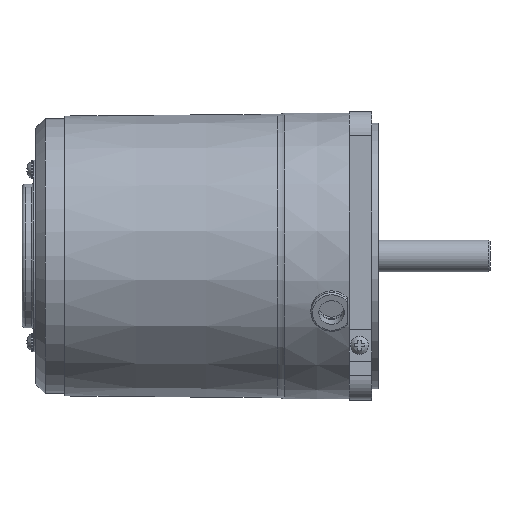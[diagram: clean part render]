
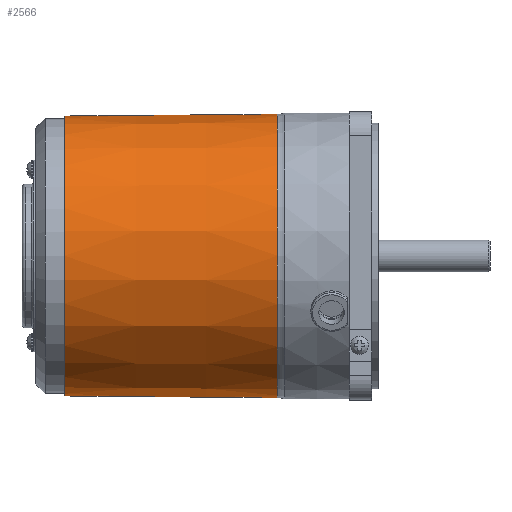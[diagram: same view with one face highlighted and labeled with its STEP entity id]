
A CAD part, top view. The second image highlights one B-rep face of the part: STEP entity #2566.
In plain terms, the highlighted conical face has half-angle 0.48 degrees and reference radius 44.029 mm.
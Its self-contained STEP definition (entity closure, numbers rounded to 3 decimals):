
#15=CONICAL_SURFACE('',#2805,44.029,0.48);
#525=FACE_BOUND('',#843,.T.);
#650=FACE_OUTER_BOUND('',#842,.T.);
#842=EDGE_LOOP('',(#2070));
#843=EDGE_LOOP('',(#2071));
#986=CIRCLE('',#2804,43.75);
#987=CIRCLE('',#2806,44.308);
#1185=VERTEX_POINT('',#4333);
#1186=VERTEX_POINT('',#4336);
#1494=EDGE_CURVE('',#1185,#1185,#986,.T.);
#1495=EDGE_CURVE('',#1186,#1186,#987,.T.);
#2070=ORIENTED_EDGE('',*,*,#1495,.F.);
#2071=ORIENTED_EDGE('',*,*,#1494,.T.);
#2566=ADVANCED_FACE('',(#650,#525),#15,.T.);
#2804=AXIS2_PLACEMENT_3D('',#4334,#3376,#3377);
#2805=AXIS2_PLACEMENT_3D('',#4335,#3378,#3379);
#2806=AXIS2_PLACEMENT_3D('',#4337,#3380,#3381);
#3376=DIRECTION('center_axis',(1.,0.,0.));
#3377=DIRECTION('ref_axis',(0.,1.,0.));
#3378=DIRECTION('center_axis',(1.,0.,0.));
#3379=DIRECTION('ref_axis',(0.,1.,0.));
#3380=DIRECTION('center_axis',(1.,0.,0.));
#3381=DIRECTION('ref_axis',(0.,1.,0.));
#4333=CARTESIAN_POINT('',(9.,43.75,0.));
#4334=CARTESIAN_POINT('Origin',(9.,0.,0.));
#4335=CARTESIAN_POINT('Origin',(42.279,0.,
0.));
#4336=CARTESIAN_POINT('',(75.559,44.308,0.));
#4337=CARTESIAN_POINT('Origin',(75.559,0.,0.));
